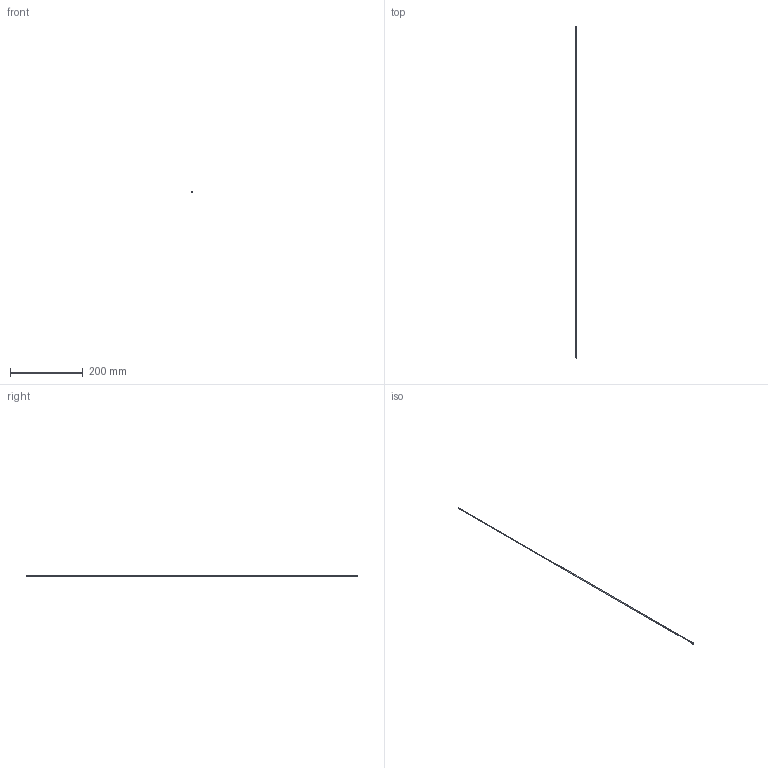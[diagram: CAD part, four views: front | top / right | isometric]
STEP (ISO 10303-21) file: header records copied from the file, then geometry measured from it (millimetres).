
FILE_DESCRIPTION(/* description */ (''),/* implementation_level */ '2;1');
FILE_NAME(/* name */ 'C:/Users/drich/Desktop/R093T-36 v1.step',/* time_stamp */ '2019-12-30T13:11:41-06:00',/* author */ (''),/* organization */ (''),/* preprocessor_version */ 'ST-DEVELOPER v18',/* originating_system */ 'Autodesk Translation Framework v8.12.0.6',/* authorisation */ '');
FILE_SCHEMA (('AUTOMOTIVE_DESIGN { 1 0 10303 214 3 1 1 }'));
Length unit declared in the file: inch
Products named in the file (1): R093T-36
Bounding box: 4.62 x 914.4 x 4.62 mm (x, y, z)
Volume: 1120.1 mm3; surface area: 12192.1 mm2
Topology: 1 solids, 1 shells, 19 faces, 47 edges, 33 vertices
Faces by surface type: plane 11, cylinder 4, torus 3, cone 1
Full cylindrical faces by diameter (mm): 1.93 x1, 2.286 x1, 3.096 x1, 4.623 x1
Entity records: 624 total; most frequent: DIRECTION 111, CARTESIAN_POINT 100, ORIENTED_EDGE 94, EDGE_CURVE 47, AXIS2_PLACEMENT_3D 44, VERTEX_POINT 33, EDGE_LOOP 24, CIRCLE 24
